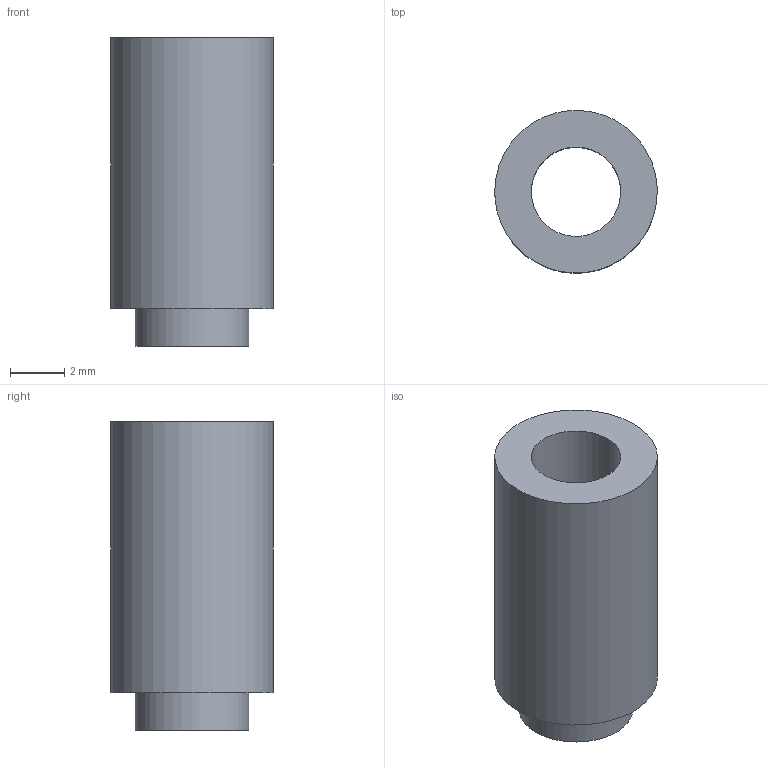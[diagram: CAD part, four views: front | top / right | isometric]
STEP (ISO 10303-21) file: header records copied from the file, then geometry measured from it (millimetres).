
FILE_DESCRIPTION(('FreeCAD Model'),'2;1');
FILE_NAME('Open CASCADE Shape Model','2026-03-20T17:23:27',('Author'),( ''),'Open CASCADE STEP processor 7.8','FreeCAD','Unknown');
FILE_SCHEMA(('AP242_MANAGED_MODEL_BASED_3D_ENGINEERING_MIM_LF. {1 0 10303 442 1 1 4 }'));
Length unit declared in the file: millimetre
Products named in the file (1): 1_transformed
Bounding box: 6 x 5.99 x 11.4 mm (x, y, z)
Volume: 206.4 mm3; surface area: 365.5 mm2
Topology: 1 solids, 1 shells, 6 faces, 9 edges, 6 vertices
Faces by surface type: bspline 6
Entity records: 201 total; most frequent: CARTESIAN_POINT 109, ORIENTED_EDGE 18, FACE_BOUND 9, EDGE_LOOP 9, EDGE_CURVE 9, ADVANCED_FACE 6, VERTEX_POINT 6, B_SPLINE_SURFACE_WITH_KNOTS 3
